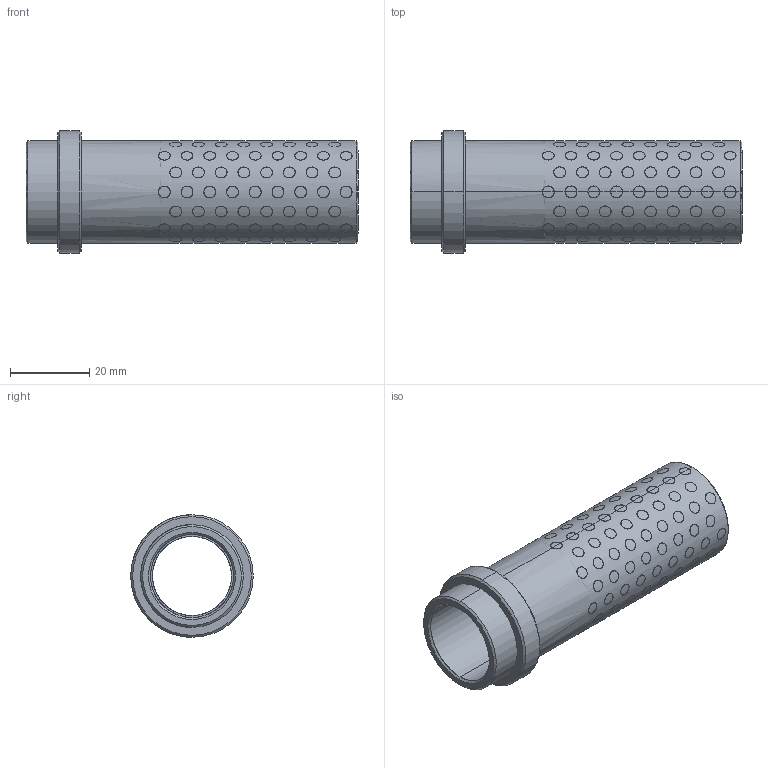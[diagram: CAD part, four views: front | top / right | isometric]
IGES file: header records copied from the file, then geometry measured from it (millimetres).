
Start section: START RECORD GO HERE.
Global section: file name: G31220076.igs; native system: DASSAULT SYSTEMES CATIA V5 R20 - www.3ds.com; preprocessor: CATIA Version 5 Release 20 ; author: r.borello; organization: CFTORINO; date: 20190624.121545; units: millimetre
Bounding box: 84 x 31 x 31 mm (x, y, z)
Surface area: 20663.8 mm2 (no closed solid volume)
Topology: 0 solids, 0 shells, 879 faces, 3804 edges, 3804 vertices
Faces by surface type: revolution 874, plane 5
